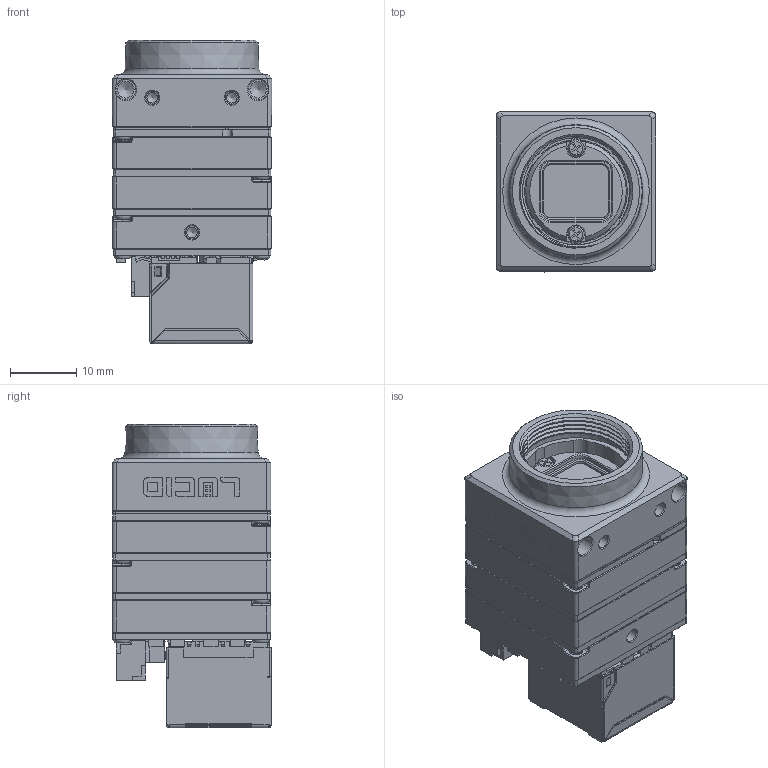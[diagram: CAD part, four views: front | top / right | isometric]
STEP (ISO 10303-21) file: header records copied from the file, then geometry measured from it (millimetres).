
FILE_DESCRIPTION (( 'STEP AP203' ), '1' );
FILE_NAME ('314-099-B_PHX24 NF-MOUNT_CUBE.STEP', '2018-10-22T17:32:13', ( '' ), ( '' ), 'SwSTEP 2.0', 'SolidWorks 2017', '' );
FILE_SCHEMA (( 'CONFIG_CONTROL_DESIGN' ));
Length unit declared in the file: millimetre
Products named in the file (1): 314-099-B_PHX24 NF-MOUNT_CUBE
Bounding box: 24.13 x 24.15 x 45.84 mm (x, y, z)
Volume: 9351.7 mm3; surface area: 18921.8 mm2
Topology: 55 solids, 55 shells, 4305 faces, 11194 edges, 6949 vertices
Faces by surface type: plane 2563, cylinder 1054, bspline 278, cone 233, torus 111, sphere 66
Full cylindrical faces by diameter (mm): 1 x2, 1.05 x1, 1.1 x2, 1.2 x1, 1.35 x6, 1.5 x2, 1.6 x5, 1.7 x24, 1.8 x4, 1.9 x22, 2 x5, 2.5 x4, 3 x4, 17.05 x1
Entity records: 134718 total; most frequent: CARTESIAN_POINT 32067, ORIENTED_EDGE 21708, DIRECTION 20314, EDGE_CURVE 10854, VECTOR 7766, LINE 7766, VERTEX_POINT 6920, AXIS2_PLACEMENT_3D 6274
